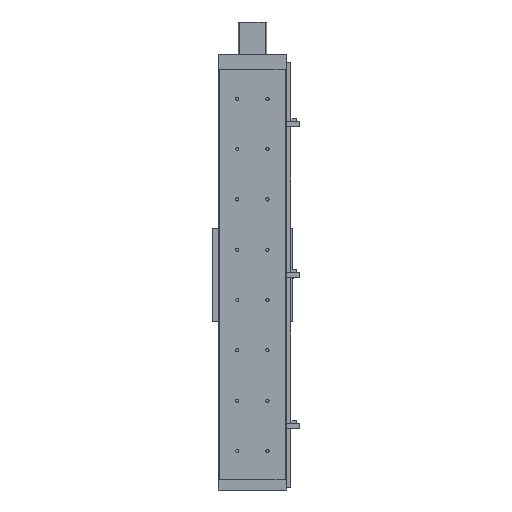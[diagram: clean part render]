
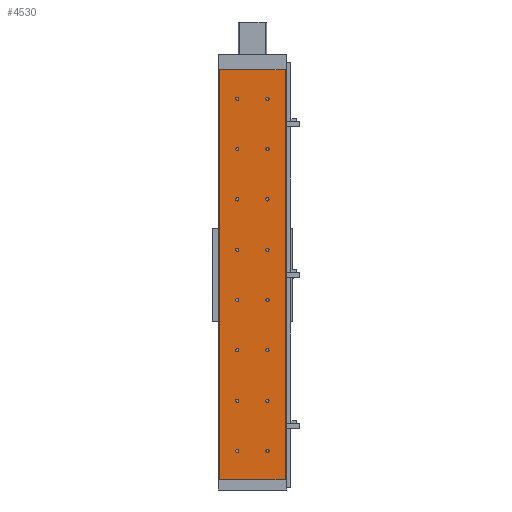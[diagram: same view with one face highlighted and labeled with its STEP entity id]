
A CAD part, front view. The second image highlights one B-rep face of the part: STEP entity #4530.
In plain terms, the highlighted planar face has unit normal (0, -1, 0).
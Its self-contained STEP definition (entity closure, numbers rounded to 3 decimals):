
#2214=CARTESIAN_POINT('',(26.75,0.0,157.5));
#2215=VERTEX_POINT('',#2214);
#2216=CARTESIAN_POINT('',(30.,0.0,157.5));
#2217=DIRECTION('',(0.0,1.0,0.0));
#2218=DIRECTION('',(1.0,0.0,0.0));
#2219=AXIS2_PLACEMENT_3D('',#2216,#2217,#2218);
#2220=CIRCLE('',#2219,3.25);
#2221=EDGE_CURVE('',#2215,#2215,#2220,.T.);
#2255=CARTESIAN_POINT('',(-33.25,0.0,157.5));
#2256=VERTEX_POINT('',#2255);
#2257=CARTESIAN_POINT('',(-30.,0.0,157.5));
#2258=DIRECTION('',(0.0,1.0,0.0));
#2259=DIRECTION('',(1.0,0.0,0.0));
#2260=AXIS2_PLACEMENT_3D('',#2257,#2258,#2259);
#2261=CIRCLE('',#2260,3.25);
#2262=EDGE_CURVE('',#2256,#2256,#2261,.T.);
#2365=CARTESIAN_POINT('',(-33.25,0.0,557.5));
#2366=VERTEX_POINT('',#2365);
#2367=CARTESIAN_POINT('',(-30.,0.0,557.5));
#2368=DIRECTION('',(0.0,1.0,0.0));
#2369=DIRECTION('',(1.0,0.0,0.0));
#2370=AXIS2_PLACEMENT_3D('',#2367,#2368,#2369);
#2371=CIRCLE('',#2370,3.25);
#2372=EDGE_CURVE('',#2366,#2366,#2371,.T.);
#2544=CARTESIAN_POINT('',(26.75,0.0,557.5));
#2545=VERTEX_POINT('',#2544);
#2546=CARTESIAN_POINT('',(30.,0.0,557.5));
#2547=DIRECTION('',(0.0,1.0,0.0));
#2548=DIRECTION('',(1.0,0.0,0.0));
#2549=AXIS2_PLACEMENT_3D('',#2546,#2547,#2548);
#2550=CIRCLE('',#2549,3.25);
#2551=EDGE_CURVE('',#2545,#2545,#2550,.T.);
#2585=CARTESIAN_POINT('',(-33.25,0.0,657.5));
#2586=VERTEX_POINT('',#2585);
#2587=CARTESIAN_POINT('',(-30.,0.0,657.5));
#2588=DIRECTION('',(0.0,1.0,0.0));
#2589=DIRECTION('',(1.0,0.0,0.0));
#2590=AXIS2_PLACEMENT_3D('',#2587,#2588,#2589);
#2591=CIRCLE('',#2590,3.25);
#2592=EDGE_CURVE('',#2586,#2586,#2591,.T.);
#2764=CARTESIAN_POINT('',(26.75,0.0,657.5));
#2765=VERTEX_POINT('',#2764);
#2766=CARTESIAN_POINT('',(30.,0.0,657.5));
#2767=DIRECTION('',(0.0,1.0,0.0));
#2768=DIRECTION('',(1.0,0.0,0.0));
#2769=AXIS2_PLACEMENT_3D('',#2766,#2767,#2768);
#2770=CIRCLE('',#2769,3.25);
#2771=EDGE_CURVE('',#2765,#2765,#2770,.T.);
#2805=CARTESIAN_POINT('',(-33.25,0.0,757.5));
#2806=VERTEX_POINT('',#2805);
#2807=CARTESIAN_POINT('',(-30.,0.0,757.5));
#2808=DIRECTION('',(0.0,1.0,0.0));
#2809=DIRECTION('',(1.0,0.0,0.0));
#2810=AXIS2_PLACEMENT_3D('',#2807,#2808,#2809);
#2811=CIRCLE('',#2810,3.25);
#2812=EDGE_CURVE('',#2806,#2806,#2811,.T.);
#2984=CARTESIAN_POINT('',(26.75,0.0,757.5));
#2985=VERTEX_POINT('',#2984);
#2986=CARTESIAN_POINT('',(30.,0.0,757.5));
#2987=DIRECTION('',(0.0,1.0,0.0));
#2988=DIRECTION('',(1.0,0.0,0.0));
#2989=AXIS2_PLACEMENT_3D('',#2986,#2987,#2988);
#2990=CIRCLE('',#2989,3.25);
#2991=EDGE_CURVE('',#2985,#2985,#2990,.T.);
#3025=CARTESIAN_POINT('',(-33.25,0.0,357.5));
#3026=VERTEX_POINT('',#3025);
#3027=CARTESIAN_POINT('',(-30.,0.0,357.5));
#3028=DIRECTION('',(0.0,1.0,0.0));
#3029=DIRECTION('',(1.0,0.0,0.0));
#3030=AXIS2_PLACEMENT_3D('',#3027,#3028,#3029);
#3031=CIRCLE('',#3030,3.25);
#3032=EDGE_CURVE('',#3026,#3026,#3031,.T.);
#3204=CARTESIAN_POINT('',(26.75,0.0,357.5));
#3205=VERTEX_POINT('',#3204);
#3206=CARTESIAN_POINT('',(30.,0.0,357.5));
#3207=DIRECTION('',(0.0,1.0,0.0));
#3208=DIRECTION('',(1.0,0.0,0.0));
#3209=AXIS2_PLACEMENT_3D('',#3206,#3207,#3208);
#3210=CIRCLE('',#3209,3.25);
#3211=EDGE_CURVE('',#3205,#3205,#3210,.T.);
#3245=CARTESIAN_POINT('',(-33.25,0.0,257.5));
#3246=VERTEX_POINT('',#3245);
#3247=CARTESIAN_POINT('',(-30.,0.0,257.5));
#3248=DIRECTION('',(0.0,1.0,0.0));
#3249=DIRECTION('',(1.0,0.0,0.0));
#3250=AXIS2_PLACEMENT_3D('',#3247,#3248,#3249);
#3251=CIRCLE('',#3250,3.25);
#3252=EDGE_CURVE('',#3246,#3246,#3251,.T.);
#3424=CARTESIAN_POINT('',(26.75,0.0,257.5));
#3425=VERTEX_POINT('',#3424);
#3426=CARTESIAN_POINT('',(30.,0.0,257.5));
#3427=DIRECTION('',(0.0,1.0,0.0));
#3428=DIRECTION('',(1.0,0.0,0.0));
#3429=AXIS2_PLACEMENT_3D('',#3426,#3427,#3428);
#3430=CIRCLE('',#3429,3.25);
#3431=EDGE_CURVE('',#3425,#3425,#3430,.T.);
#3465=CARTESIAN_POINT('',(-33.25,0.0,57.5));
#3466=VERTEX_POINT('',#3465);
#3467=CARTESIAN_POINT('',(-30.,0.0,57.5));
#3468=DIRECTION('',(0.0,1.0,0.0));
#3469=DIRECTION('',(1.0,0.0,0.0));
#3470=AXIS2_PLACEMENT_3D('',#3467,#3468,#3469);
#3471=CIRCLE('',#3470,3.25);
#3472=EDGE_CURVE('',#3466,#3466,#3471,.T.);
#3644=CARTESIAN_POINT('',(26.75,0.0,57.5));
#3645=VERTEX_POINT('',#3644);
#3646=CARTESIAN_POINT('',(30.,0.0,57.5));
#3647=DIRECTION('',(0.0,1.0,0.0));
#3648=DIRECTION('',(1.0,0.0,0.0));
#3649=AXIS2_PLACEMENT_3D('',#3646,#3647,#3648);
#3650=CIRCLE('',#3649,3.25);
#3651=EDGE_CURVE('',#3645,#3645,#3650,.T.);
#3754=CARTESIAN_POINT('',(26.75,0.0,457.5));
#3755=VERTEX_POINT('',#3754);
#3756=CARTESIAN_POINT('',(30.,0.0,457.5));
#3757=DIRECTION('',(0.0,1.0,0.0));
#3758=DIRECTION('',(1.0,0.0,0.0));
#3759=AXIS2_PLACEMENT_3D('',#3756,#3757,#3758);
#3760=CIRCLE('',#3759,3.25);
#3761=EDGE_CURVE('',#3755,#3755,#3760,.T.);
#3864=CARTESIAN_POINT('',(-33.25,0.0,457.5));
#3865=VERTEX_POINT('',#3864);
#3866=CARTESIAN_POINT('',(-30.,0.0,457.5));
#3867=DIRECTION('',(0.0,1.0,0.0));
#3868=DIRECTION('',(1.0,0.0,0.0));
#3869=AXIS2_PLACEMENT_3D('',#3866,#3867,#3868);
#3870=CIRCLE('',#3869,3.25);
#3871=EDGE_CURVE('',#3865,#3865,#3870,.T.);
#4198=CARTESIAN_POINT('',(65.0,0.0,0.0));
#4199=VERTEX_POINT('',#4198);
#4206=CARTESIAN_POINT('',(-65.0,0.0,0.0));
#4207=VERTEX_POINT('',#4206);
#4208=CARTESIAN_POINT('',(-65.0,0.0,0.0));
#4209=DIRECTION('',(1.0,0.0,0.0));
#4210=VECTOR('',#4209,130.0);
#4211=LINE('',#4208,#4210);
#4212=EDGE_CURVE('',#4207,#4199,#4211,.T.);
#4402=CARTESIAN_POINT('',(-65.0,0.0,815.0));
#4403=VERTEX_POINT('',#4402);
#4410=CARTESIAN_POINT('',(65.0,0.0,815.0));
#4411=VERTEX_POINT('',#4410);
#4412=CARTESIAN_POINT('',(65.0,0.0,815.0));
#4413=DIRECTION('',(-1.0,0.0,0.0));
#4414=VECTOR('',#4413,130.0);
#4415=LINE('',#4412,#4414);
#4416=EDGE_CURVE('',#4411,#4403,#4415,.T.);
#4439=CARTESIAN_POINT('',(-65.0,0.0,0.0));
#4440=DIRECTION('',(0.0,0.0,1.0));
#4441=VECTOR('',#4440,815.0);
#4442=LINE('',#4439,#4441);
#4443=EDGE_CURVE('',#4207,#4403,#4442,.T.);
#4461=CARTESIAN_POINT('',(65.0,0.0,0.0));
#4462=DIRECTION('',(0.0,0.0,1.0));
#4463=VECTOR('',#4462,815.0);
#4464=LINE('',#4461,#4463);
#4465=EDGE_CURVE('',#4199,#4411,#4464,.T.);
#4471=CARTESIAN_POINT('',(65.0,0.0,0.0));
#4472=DIRECTION('',(0.0,-1.0,0.0));
#4473=DIRECTION('',(0.0,0.0,-1.0));
#4474=AXIS2_PLACEMENT_3D('',#4471,#4472,#4473);
#4475=PLANE('',#4474);
#4476=ORIENTED_EDGE('',*,*,#4416,.T.);
#4477=ORIENTED_EDGE('',*,*,#4443,.F.);
#4478=ORIENTED_EDGE('',*,*,#4212,.T.);
#4479=ORIENTED_EDGE('',*,*,#4465,.T.);
#4480=EDGE_LOOP('',(#4476,#4477,#4478,#4479));
#4481=FACE_OUTER_BOUND('',#4480,.T.);
#4482=ORIENTED_EDGE('',*,*,#2221,.T.);
#4483=EDGE_LOOP('',(#4482));
#4484=FACE_BOUND('',#4483,.T.);
#4485=ORIENTED_EDGE('',*,*,#2262,.T.);
#4486=EDGE_LOOP('',(#4485));
#4487=FACE_BOUND('',#4486,.T.);
#4488=ORIENTED_EDGE('',*,*,#2372,.T.);
#4489=EDGE_LOOP('',(#4488));
#4490=FACE_BOUND('',#4489,.T.);
#4491=ORIENTED_EDGE('',*,*,#2551,.T.);
#4492=EDGE_LOOP('',(#4491));
#4493=FACE_BOUND('',#4492,.T.);
#4494=ORIENTED_EDGE('',*,*,#2592,.T.);
#4495=EDGE_LOOP('',(#4494));
#4496=FACE_BOUND('',#4495,.T.);
#4497=ORIENTED_EDGE('',*,*,#2771,.T.);
#4498=EDGE_LOOP('',(#4497));
#4499=FACE_BOUND('',#4498,.T.);
#4500=ORIENTED_EDGE('',*,*,#2812,.T.);
#4501=EDGE_LOOP('',(#4500));
#4502=FACE_BOUND('',#4501,.T.);
#4503=ORIENTED_EDGE('',*,*,#2991,.T.);
#4504=EDGE_LOOP('',(#4503));
#4505=FACE_BOUND('',#4504,.T.);
#4506=ORIENTED_EDGE('',*,*,#3032,.T.);
#4507=EDGE_LOOP('',(#4506));
#4508=FACE_BOUND('',#4507,.T.);
#4509=ORIENTED_EDGE('',*,*,#3211,.T.);
#4510=EDGE_LOOP('',(#4509));
#4511=FACE_BOUND('',#4510,.T.);
#4512=ORIENTED_EDGE('',*,*,#3252,.T.);
#4513=EDGE_LOOP('',(#4512));
#4514=FACE_BOUND('',#4513,.T.);
#4515=ORIENTED_EDGE('',*,*,#3431,.T.);
#4516=EDGE_LOOP('',(#4515));
#4517=FACE_BOUND('',#4516,.T.);
#4518=ORIENTED_EDGE('',*,*,#3472,.T.);
#4519=EDGE_LOOP('',(#4518));
#4520=FACE_BOUND('',#4519,.T.);
#4521=ORIENTED_EDGE('',*,*,#3651,.T.);
#4522=EDGE_LOOP('',(#4521));
#4523=FACE_BOUND('',#4522,.T.);
#4524=ORIENTED_EDGE('',*,*,#3761,.T.);
#4525=EDGE_LOOP('',(#4524));
#4526=FACE_BOUND('',#4525,.T.);
#4527=ORIENTED_EDGE('',*,*,#3871,.T.);
#4528=EDGE_LOOP('',(#4527));
#4529=FACE_BOUND('',#4528,.T.);
#4530=ADVANCED_FACE('',(#4481,#4484,#4487,#4490,#4493,#4496,#4499,#4502,#4505,#4508,#4511,#4514,#4517,#4520,#4523,#4526,#4529),#4475,.T.);
